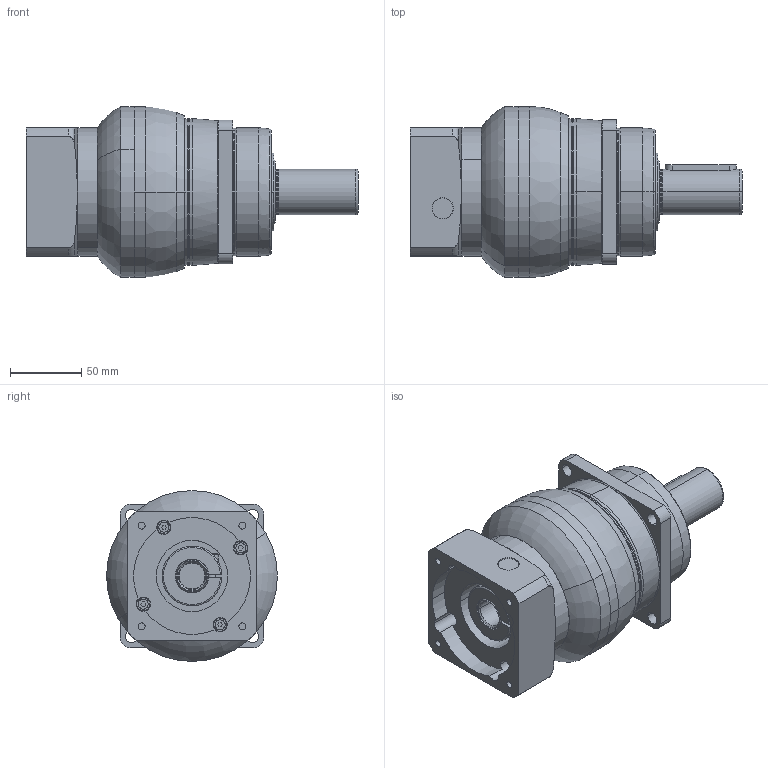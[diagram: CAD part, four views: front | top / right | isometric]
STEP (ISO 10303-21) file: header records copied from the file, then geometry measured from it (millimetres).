
FILE_DESCRIPTION(('STEP AP214'),'1');
FILE_NAME('20180723_141018642.stp','2018-07-23T12:10:19',(''),(''),'XStep 1.0','it-motive AG (itm_Acis_A0018_00R.dll)',' ');
FILE_SCHEMA(('AUTOMOTIVE_DESIGN { 1 0 10303 214 1 1 1 1 }'));
Length unit declared in the file: millimetre
Products named in the file (1): Abtrieb_NPS_m080
Bounding box: 233.1 x 120 x 120 mm (x, y, z)
Volume: 1420439.6 mm3; surface area: 157180 mm2
Topology: 7 solids, 7 shells, 332 faces, 793 edges, 498 vertices
Faces by surface type: cylinder 130, plane 106, torus 52, cone 40, bspline 4
Entity records: 13566 total; most frequent: CARTESIAN_POINT 2841, DIRECTION 1820, ORIENTED_EDGE 1562, EDGE_CURVE 781, AXIS2_PLACEMENT_3D 753, VERTEX_POINT 498, CIRCLE 418, EDGE_LOOP 385
